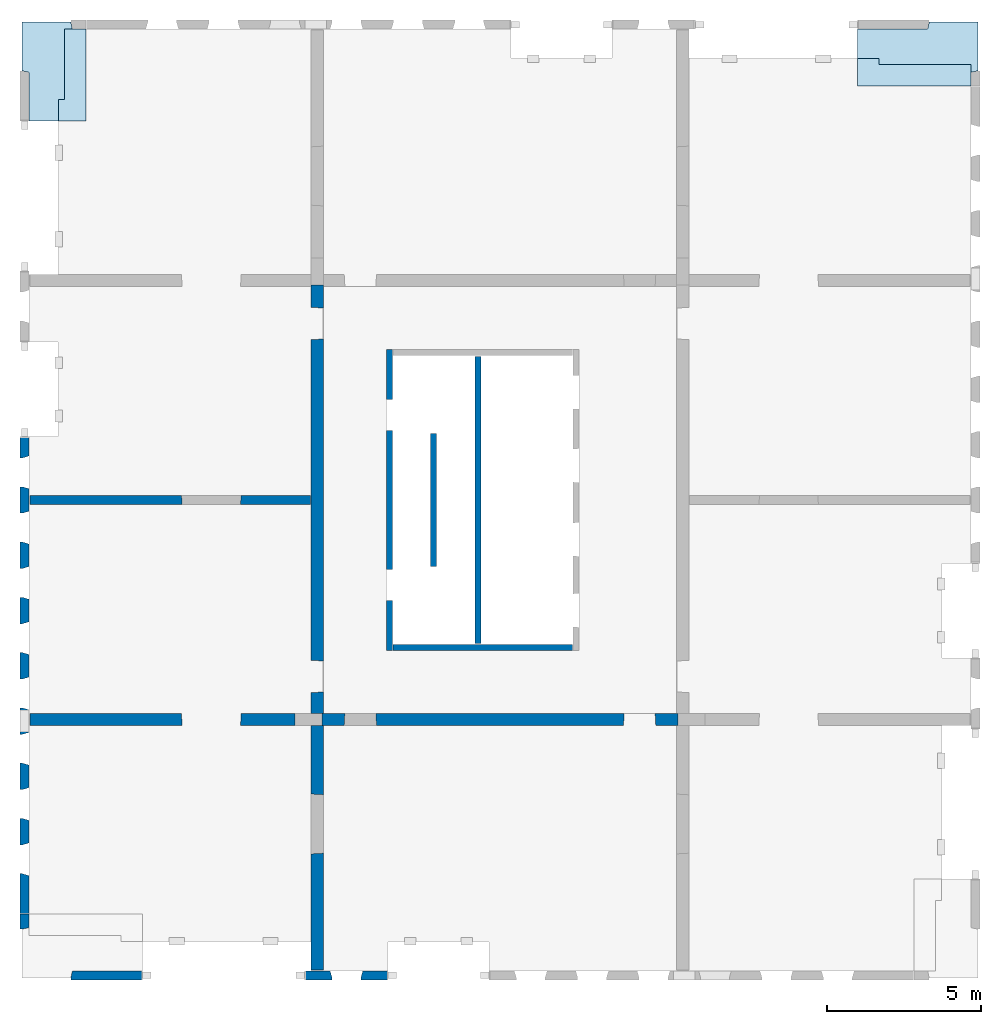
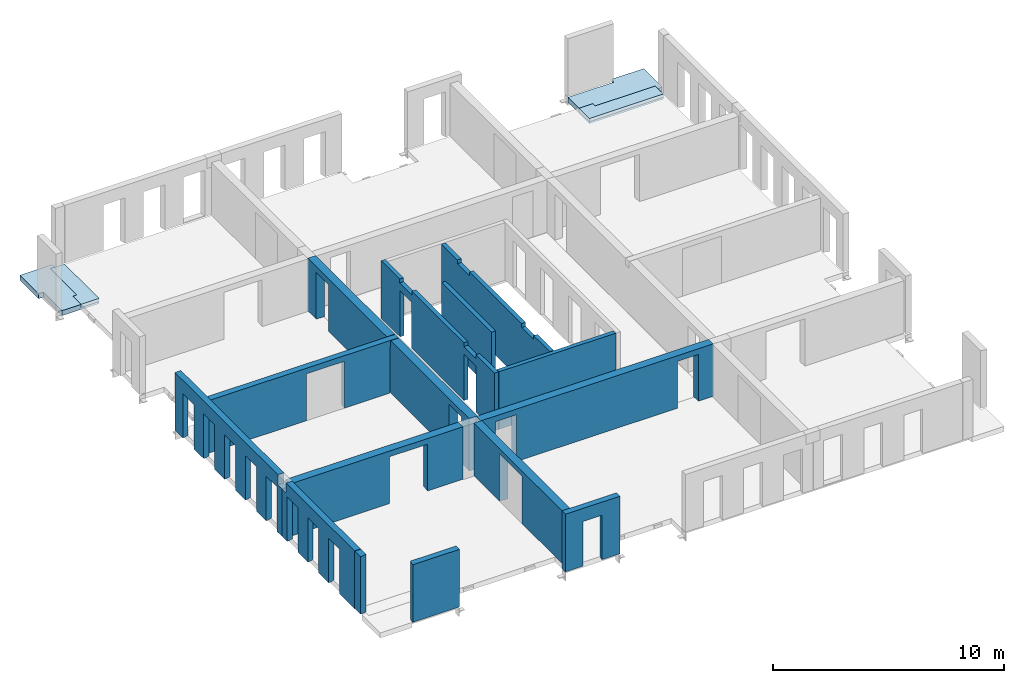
# One storey, part 2 of 4: 14 walls, 4 slabs, 34 openings.
"""IFC2X3 building model written with IfcOpenShell, lengths in millimetres."""

from ifc_helpers import new_model, entity, si_unit, converted_unit, derived_unit, direction, frame, frame_2d, origin, place, context, subcontext, project, spatial, polyline, rectangle, outline, extrude, faceted_brep, material, layer, layer_set, layer_usage, type_object, element, save


model = new_model("IFC2X3")

# Units and contexts
model_context = context("Model", 3, precision=0.01, world=origin(), true_north=direction((6.12303176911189e-17, 1.0)))
body_context = subcontext(model_context, "Body", "Model", "MODEL_VIEW")
ifc_project = project(units=[si_unit("LENGTHUNIT", "METRE", prefix="MILLI"), si_unit("AREAUNIT", "SQUARE_METRE"), si_unit("VOLUMEUNIT", "CUBIC_METRE"), converted_unit("PLANEANGLEUNIT", "DEGREE", entity("IfcRatioMeasure", 0.0174532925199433), si_unit("PLANEANGLEUNIT", "RADIAN"), dimensions=[0, 0, 0, 0, 0, 0, 0]), si_unit("MASSUNIT", "GRAM", prefix="KILO"), derived_unit("MASSDENSITYUNIT", [(si_unit("MASSUNIT", "GRAM", prefix="KILO"), 1), (si_unit("LENGTHUNIT", "METRE"), -3)]), si_unit("TIMEUNIT", "SECOND"), si_unit("FREQUENCYUNIT", "HERTZ"), si_unit("THERMODYNAMICTEMPERATUREUNIT", "DEGREE_CELSIUS"), derived_unit("THERMALTRANSMITTANCEUNIT", [(si_unit("MASSUNIT", "GRAM", prefix="KILO"), 1), (si_unit("THERMODYNAMICTEMPERATUREUNIT", "KELVIN"), -1), (si_unit("TIMEUNIT", "SECOND"), -3)]), derived_unit("VOLUMETRICFLOWRATEUNIT", [(si_unit("LENGTHUNIT", "METRE"), 3), (si_unit("TIMEUNIT", "SECOND"), -1)]), si_unit("ELECTRICCURRENTUNIT", "AMPERE"), si_unit("ELECTRICVOLTAGEUNIT", "VOLT"), si_unit("POWERUNIT", "WATT"), si_unit("FORCEUNIT", "NEWTON", prefix="KILO"), si_unit("ILLUMINANCEUNIT", "LUX"), si_unit("LUMINOUSFLUXUNIT", "LUMEN"), si_unit("LUMINOUSINTENSITYUNIT", "CANDELA"), derived_unit("USERDEFINED", [(si_unit("MASSUNIT", "GRAM", prefix="KILO"), -1), (si_unit("LENGTHUNIT", "METRE"), -2), (si_unit("TIMEUNIT", "SECOND"), 3), (si_unit("LUMINOUSFLUXUNIT", "LUMEN"), 1)]), derived_unit("LINEARVELOCITYUNIT", [(si_unit("LENGTHUNIT", "METRE"), 1), (si_unit("TIMEUNIT", "SECOND"), -1)]), si_unit("PRESSUREUNIT", "PASCAL"), derived_unit("USERDEFINED", [(si_unit("LENGTHUNIT", "METRE"), -2), (si_unit("MASSUNIT", "GRAM", prefix="KILO"), 1), (si_unit("TIMEUNIT", "SECOND"), -2)])], contexts=[model_context])

# Site, building, storey
site_placement = place(None, origin())
site = spatial("IfcSite", under=ifc_project, at=site_placement, Name="Default", CompositionType="ELEMENT")
building_placement = place(site_placement, origin())
building = spatial("IfcBuilding", under=site, at=building_placement, Name="niet gebruiken", CompositionType="ELEMENT")
storey_placement = place(building_placement, frame((0.0, 0.0, 91440.0)))
storey = spatial("IfcBuildingStorey", under=building, at=storey_placement, Name="29 negenentwintigste verdieping", CompositionType="ELEMENT", Elevation=91440.0000000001)

# Slabs
ifc_material_1 = material(Name="NLRS_f2_beton prefab")
ifc_layer_1 = layer(ifc_material_1, 270.0)
ifc_layer_set_1 = layer_set([ifc_layer_1], Name="Floor:NLRS_23.22_FL_beton prefab d=270 3D element_gen")
ifc_layer_usage_1 = layer_usage(ifc_layer_set_1, "AXIS3", "POSITIVE", 0.0)
slab_1_placement = place(storey_placement, origin())
element("IfcSlab", 1, at=slab_1_placement, inside=storey, material=ifc_layer_usage_1, Name="Floor:NLRS_23.22_FL_beton prefab d=270 3D element_gen", ObjectType="Floor:NLRS_23.22_FL_beton prefab d=270 3D element_gen", PredefinedType="LANDING", context=body_context, shape_type="SweptSolid", body=[
    extrude(outline(polyline([(-322.675940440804, -982.471394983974), (1267.47139498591, -982.471394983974), (1267.47139498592, 607.675940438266), (1034.47139498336, 655.152429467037), (1034.47139498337, 1100.5286050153), (-1955.52860501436, 1100.52860501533), (-1955.52860501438, -749.471394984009), (-370.152429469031, -749.471394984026), (-322.675940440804, -982.471394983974)])), frame((127169.471394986, 31795.5286050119, -90.0), z_axis=(0.0, 0.0, -1.0), x_axis=(0.0, 1.0, 0.0)), (0.0, 0.0, 1.0), 270.000000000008),
])
ifc_material_2 = material(Name="NLRS_f2_beton ihwg")
ifc_layer_2 = layer(ifc_material_2, 170.0)
ifc_layer_set_2 = layer_set([ifc_layer_2], Name="Floor:NLRS_23.21_FL_beton ihwg d=170_gen")
ifc_layer_usage_2 = layer_usage(ifc_layer_set_2, "AXIS3", "POSITIVE", 0.0)
slab_2_placement = place(storey_placement, origin())
element("IfcSlab", 2, at=slab_2_placement, inside=storey, material=ifc_layer_usage_2, Name="Floor:NLRS_23.21_FL_beton ihwg d=170_gen", ObjectType="Floor:NLRS_23.21_FL_beton ihwg d=170_gen", PredefinedType="FLOOR", context=body_context, shape_type="SweptSolid", body=[
    extrude(outline(polyline([(-1230.0, -366.666666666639), (-530.0, -366.666666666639), (-530.0, -166.66666666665), (1760.0, -166.666666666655), (1760.0, 533.333333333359), (-1230.0, 533.333333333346), (-1230.0, -366.666666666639)])), frame((127736.666666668, 31070.0, -90.0), z_axis=(0.0, 0.0, -1.0), x_axis=(0.0, 1.0, 0.0)), (0.0, 0.0, 1.0), 169.999999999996),
])
ifc_layer_usage_3 = layer_usage(ifc_layer_set_1, "AXIS3", "POSITIVE", 0.0)
slab_3_placement = place(storey_placement, origin())
element("IfcSlab", 3, at=slab_3_placement, inside=storey, material=ifc_layer_usage_3, Name="Floor:NLRS_23.22_FL_beton prefab d=270 3D element_gen", ObjectType="Floor:NLRS_23.22_FL_beton prefab d=270 3D element_gen", PredefinedType="LANDING", context=body_context, shape_type="SweptSolid", body=[
    extrude(outline(polyline([(-1100.52860501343, -2480.52860501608), (749.471394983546, -2480.52860501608), (749.471394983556, -195.152429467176), (982.471394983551, -147.675940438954), (982.471394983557, 1442.47139498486), (-607.675940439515, 1442.47139498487), (-655.152429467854, 1209.47139498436), (-1100.52860501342, 1209.47139498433), (-1100.52860501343, -2480.52860501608)])), frame((155870.528605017, 32080.5286050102, -90.0), z_axis=(0.0, 0.0, -1.0), x_axis=(0.0, 1.0, 0.0)), (0.0, 0.0, 1.0), 270.000000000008),
])
ifc_layer_usage_4 = layer_usage(ifc_layer_set_2, "AXIS3", "POSITIVE", 0.0)
slab_4_placement = place(storey_placement, origin())
element("IfcSlab", 4, at=slab_4_placement, inside=storey, material=ifc_layer_usage_4, Name="Floor:NLRS_23.21_FL_beton ihwg d=170_gen", ObjectType="Floor:NLRS_23.21_FL_beton ihwg d=170_gen", PredefinedType="FLOOR", context=body_context, shape_type="SweptSolid", body=[
    extrude(outline(polyline([(-533.333333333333, -1463.33333333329), (366.666666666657, -1463.33333333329), (366.666666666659, -763.333333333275), (166.66666666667, -763.333333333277), (166.666666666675, 2226.66666666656), (-533.333333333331, 2226.66666666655), (-533.333333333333, -1463.33333333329)])), frame((154853.333333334, 31513.3333333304, -90.0), z_axis=(0.0, 0.0, -1.0), x_axis=(0.0, 1.0, 0.0)), (0.0, 0.0, 1.0), 169.999999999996),
])

# Wall, openings
ifc_layer_3 = layer(ifc_material_1, 200.0)
ifc_layer_set_3 = layer_set([ifc_layer_3], Name="Basic Wall:NLRS_22.21_WA_beton prefab d=200_gen")
ifc_layer_usage_5 = layer_usage(ifc_layer_set_3, "AXIS2", "NEGATIVE", 100.0)
wall_type_1 = type_object("IfcWallType", Name="Basic Wall:NLRS_22.21_WA_beton prefab d=200_gen", PredefinedType="STANDARD", material=ifc_layer_set_3)
wall_1_placement = place(storey_placement, frame((138150.0, 22400.0, -50.0), z_axis=(0.0, 0.0, 1.0), x_axis=(0.0, -1.0, 0.0)))
wall_1 = element("IfcWallStandardCase", 5, at=wall_1_placement, inside=storey, type_object=wall_type_1, material=ifc_layer_usage_5, Name="Basic Wall:NLRS_22.21_WA_beton prefab d=200_gen", ObjectType="Basic Wall:NLRS_22.21_WA_beton prefab d=200_gen", context=body_context, shape_type="SweptSolid", body=[
    extrude(rectangle(XDim=9800.0, YDim=199.999999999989, at=frame_2d((4900.0, 3.76587649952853e-13), x_axis=(-1.0, 0.0))), origin(), (0.0, 0.0, 1.0), 3040.0),
])
opening_1_placement = place(wall_1_placement, origin())
element("IfcOpeningElement", 6, at=opening_1_placement, cuts=wall_1, Name="Basic Wall:NLRS_22.21_WA_beton prefab d=200_gen", ObjectType="Opening", context=body_context, shape_type="SweptSolid", body=[
    extrude(rectangle(XDim=200.000000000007, YDim=1044.0, at=frame_2d((8.66862137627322e-12, 0.0), x_axis=(1.0, 0.0))), frame((7672.0, -100.0, 2940.0), z_axis=(0.0, 1.0, 0.0), x_axis=(0.0, 0.0, -1.0)), (0.0, 0.0, 1.0), 199.999999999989),
])
opening_2_placement = place(wall_1_placement, origin())
element("IfcOpeningElement", 7, at=opening_2_placement, cuts=wall_1, Name="Basic Wall:NLRS_22.21_WA_beton prefab d=200_gen", ObjectType="Opening", context=body_context, shape_type="SweptSolid", body=[
    extrude(rectangle(XDim=200.000000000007, YDim=1044.0, at=frame_2d((8.66862137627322e-12, 2.1600499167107e-12), x_axis=(1.0, 0.0))), frame((2128.0, -100.0, 2940.0), z_axis=(0.0, 1.0, 0.0), x_axis=(0.0, 0.0, -1.0)), (0.0, 0.0, 1.0), 199.999999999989),
])
opening_3_placement = place(wall_1_placement, origin())
element("IfcOpeningElement", 8, at=opening_3_placement, cuts=wall_1, Name="Basic Wall:NLRS_22.21_WA_beton prefab d=200_gen", ObjectType="Opening", context=body_context, shape_type="SweptSolid", body=[
    extrude(rectangle(XDim=2435.0, YDim=1015.99999999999, at=frame_2d((0.0, 1.10844666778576e-12), x_axis=(1.0, 0.0))), frame((7672.0, -100.0, 1217.50000000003), z_axis=(0.0, 1.0, 0.0), x_axis=(0.0, 0.0, -1.0)), (0.0, 0.0, 1.0), 199.999999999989),
])
opening_4_placement = place(wall_1_placement, origin())
element("IfcOpeningElement", 9, at=opening_4_placement, cuts=wall_1, Name="Basic Wall:NLRS_22.21_WA_beton prefab d=200_gen", ObjectType="Opening", context=body_context, shape_type="SweptSolid", body=[
    extrude(rectangle(XDim=2435.0, YDim=1015.99999999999, at=frame_2d((0.0, -2.18847162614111e-12), x_axis=(1.0, 0.0))), frame((2128.0, -100.0, 1217.50000000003), z_axis=(0.0, 1.0, 0.0), x_axis=(0.0, 0.0, -1.0)), (0.0, 0.0, 1.0), 199.999999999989),
])

ifc_layer_usage_6 = layer_usage(ifc_layer_set_3, "AXIS2", "NEGATIVE", 100.0)
wall_2_placement = place(storey_placement, frame((141030.0, 22180.0, -50.0), z_axis=(0.0, 0.0, 1.0), x_axis=(0.0, -1.0, 0.0)))
wall_2 = element("IfcWallStandardCase", 10, at=wall_2_placement, inside=storey, type_object=wall_type_1, material=ifc_layer_usage_6, Name="Basic Wall:NLRS_22.21_WA_beton prefab d=200_gen", ObjectType="Basic Wall:NLRS_22.21_WA_beton prefab d=200_gen", context=body_context, shape_type="SweptSolid", body=[
    extrude(rectangle(XDim=9360.0, YDim=199.999999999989, at=frame_2d((4680.0, -2.8421709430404e-14), x_axis=(-1.0, 0.0))), origin(), (0.0, 0.0, 1.0), 3040.0),
])
opening_5_placement = place(wall_2_placement, origin())
element("IfcOpeningElement", 11, at=opening_5_placement, cuts=wall_2, Name="Basic Wall:NLRS_22.21_WA_beton prefab d=200_gen", ObjectType="Opening", context=body_context, shape_type="SweptSolid", body=[
    extrude(rectangle(XDim=70.0000000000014, YDim=1044.00000000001, at=frame_2d((-8.66506866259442e-12, 0.0), x_axis=(1.0, 0.0))), frame((7452.0, -100.0, 35.0), z_axis=(0.0, 1.0, 0.0), x_axis=(0.0, 0.0, -1.0)), (0.0, 0.0, 1.0), 199.999999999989),
])
opening_6_placement = place(wall_2_placement, origin())
element("IfcOpeningElement", 12, at=opening_6_placement, cuts=wall_2, Name="Basic Wall:NLRS_22.21_WA_beton prefab d=200_gen", ObjectType="Opening", context=body_context, shape_type="SweptSolid", body=[
    extrude(rectangle(XDim=70.0000000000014, YDim=1044.00000000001, at=frame_2d((-8.66506866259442e-12, 0.0), x_axis=(1.0, 0.0))), frame((1908.0, -100.0, 35.0), z_axis=(0.0, 1.0, 0.0), x_axis=(0.0, 0.0, -1.0)), (0.0, 0.0, 1.0), 199.999999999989),
])
opening_7_placement = place(wall_2_placement, origin())
element("IfcOpeningElement", 13, at=opening_7_placement, cuts=wall_2, Name="Basic Wall:NLRS_22.21_WA_beton prefab d=200_gen", ObjectType="Opening", context=body_context, shape_type="SweptSolid", body=[
    extrude(rectangle(XDim=200.000000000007, YDim=1044.00000000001, at=frame_2d((-8.66862137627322e-12, 0.0), x_axis=(1.0, 0.0))), frame((1908.0, -100.0, 2940.0), z_axis=(0.0, 1.0, 0.0), x_axis=(0.0, 0.0, -1.0)), (0.0, 0.0, 1.0), 199.999999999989),
])
opening_8_placement = place(wall_2_placement, origin())
element("IfcOpeningElement", 14, at=opening_8_placement, cuts=wall_2, Name="Basic Wall:NLRS_22.21_WA_beton prefab d=200_gen", ObjectType="Opening", context=body_context, shape_type="SweptSolid", body=[
    extrude(rectangle(XDim=200.000000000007, YDim=1044.00000000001, at=frame_2d((-8.66862137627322e-12, 0.0), x_axis=(1.0, 0.0))), frame((7452.0, -100.0, 2940.0), z_axis=(0.0, 1.0, 0.0), x_axis=(0.0, 0.0, -1.0)), (0.0, 0.0, 1.0), 199.999999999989),
])
opening_9_placement = place(wall_2_placement, origin())
element("IfcOpeningElement", 15, at=opening_9_placement, cuts=wall_2, Name="Basic Wall:NLRS_22.21_WA_beton prefab d=200_gen", ObjectType="Recess", context=body_context, shape_type="SweptSolid", body=[
    extrude(rectangle(XDim=399.999999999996, YDim=280.000000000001, at=frame_2d((-2.1600499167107e-12, -8.66862137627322e-12), x_axis=(0.0, 1.0))), frame((770.0, -60.0, 438.0), z_axis=(0.0, 1.0, 0.0), x_axis=(1.0, 0.0, 0.0)), (0.0, 0.0, 1.0), 159.999999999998),
])
opening_10_placement = place(wall_2_placement, origin())
element("IfcOpeningElement", 16, at=opening_10_placement, cuts=wall_2, Name="Basic Wall:NLRS_22.21_WA_beton prefab d=200_gen", ObjectType="Recess", context=body_context, shape_type="SweptSolid", body=[
    extrude(rectangle(XDim=399.999999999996, YDim=280.000000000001, at=frame_2d((-2.1600499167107e-12, -8.66862137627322e-12), x_axis=(0.0, 1.0))), frame((1570.0, -60.0, 438.0), z_axis=(0.0, 1.0, 0.0), x_axis=(1.0, 0.0, 0.0)), (0.0, 0.0, 1.0), 159.999999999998),
])
opening_11_placement = place(wall_2_placement, origin())
element("IfcOpeningElement", 17, at=opening_11_placement, cuts=wall_2, Name="Basic Wall:NLRS_22.21_WA_beton prefab d=200_gen", ObjectType="Recess", context=body_context, shape_type="SweptSolid", body=[
    extrude(rectangle(XDim=399.999999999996, YDim=279.999999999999, at=frame_2d((-1.08002495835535e-12, -8.66862137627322e-12), x_axis=(0.0, 1.0))), frame((3160.0, -60.0, 438.0), z_axis=(0.0, 1.0, 0.0), x_axis=(1.0, 0.0, 0.0)), (0.0, 0.0, 1.0), 159.999999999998),
])
opening_12_placement = place(wall_2_placement, origin())
element("IfcOpeningElement", 18, at=opening_12_placement, cuts=wall_2, Name="Basic Wall:NLRS_22.21_WA_beton prefab d=200_gen", ObjectType="Recess", context=body_context, shape_type="SweptSolid", body=[
    extrude(rectangle(XDim=399.999999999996, YDim=279.999999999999, at=frame_2d((1.08002495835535e-12, -8.66862137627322e-12), x_axis=(0.0, 1.0))), frame((3960.0, -60.0, 438.0), z_axis=(0.0, 1.0, 0.0), x_axis=(1.0, 0.0, 0.0)), (0.0, 0.0, 1.0), 159.999999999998),
])

# Walls
ifc_layer_usage_7 = layer_usage(ifc_layer_set_3, "AXIS2", "NEGATIVE", 100.0)
wall_3_placement = place(storey_placement, frame((139590.0, 19660.0, -50.0), z_axis=(0.0, 0.0, 1.0), x_axis=(0.0, -1.0, 0.0)))
element("IfcWallStandardCase", 19, at=wall_3_placement, inside=storey, type_object=wall_type_1, material=ifc_layer_usage_7, Name="Basic Wall:NLRS_22.21_WA_beton prefab d=200_gen", ObjectType="Basic Wall:NLRS_22.21_WA_beton prefab d=200_gen", context=body_context, shape_type="SweptSolid", body=[
    extrude(rectangle(XDim=4320.00000000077, YDim=199.999999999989, at=frame_2d((2160.00000000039, 0.0), x_axis=(-1.0, 0.0))), origin(), (0.0, 0.0, 1.0), 3040.0),
])
ifc_layer_usage_8 = layer_usage(ifc_layer_set_3, "AXIS2", "NEGATIVE", 100.0)
wall_4_placement = place(storey_placement, frame((138270.0, 12700.0, -50.0)))
element("IfcWallStandardCase", 20, at=wall_4_placement, inside=storey, type_object=wall_type_1, material=ifc_layer_usage_8, Name="Basic Wall:NLRS_22.21_WA_beton prefab d=200_gen", ObjectType="Basic Wall:NLRS_22.21_WA_beton prefab d=200_gen", context=body_context, shape_type="SweptSolid", body=[
    extrude(rectangle(XDim=5839.99999999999, YDim=199.999999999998, at=frame_2d((2919.99999999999, -6.82121026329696e-13), x_axis=(-1.0, 0.0))), origin(), (0.0, 0.0, 1.0), 3040.0),
])

# Wall, openings
ifc_layer_4 = layer(ifc_material_1, 300.0)
ifc_layer_set_4 = layer_set([ifc_layer_4], Name="Basic Wall:NLRS_22.21_WA_beton prefab d=300_gen")
ifc_layer_usage_9 = layer_usage(ifc_layer_set_4, "AXIS2", "NEGATIVE", 150.0)
wall_type_2 = type_object("IfcWallType", Name="Basic Wall:NLRS_22.21_WA_beton prefab d=300_gen", PredefinedType="STANDARD", material=ifc_layer_set_4)
wall_5_placement = place(storey_placement, frame((126440.0, 17500.0, -70.0)))
wall_5 = element("IfcWallStandardCase", 21, at=wall_5_placement, inside=storey, type_object=wall_type_2, material=ifc_layer_usage_9, Name="Basic Wall:NLRS_22.21_WA_beton prefab d=300_gen", ObjectType="Basic Wall:NLRS_22.21_WA_beton prefab d=300_gen", context=body_context, shape_type="SweptSolid", body=[
    extrude(rectangle(XDim=9559.9999999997, YDim=300.000000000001, at=frame_2d((4779.99999999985, -5.54223333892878e-13), x_axis=(-1.0, 0.0))), origin(), (0.0, 0.0, 1.0), 2769.99999999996),
])
opening_13_placement = place(wall_5_placement, frame((4942.0, -150.0, 0.0)))
element("IfcOpeningElement", 22, at=opening_13_placement, cuts=wall_5, Name="Basic Wall:NLRS_22.21_WA_beton prefab d=300_gen", ObjectType="Opening", context=body_context, shape_type="Brep", body=[
    faceted_brep([(1918.0, 0.0, 2470.0), (18.0, 0.0, 2470.0), (18.0, 0.0, 0.0), (1918.0, 0.0, 0.0), (1936.0, 300.0, 2488.0), (1936.0, 300.0, 0.0), (0.0, 300.0, 0.0), (0.0, 300.0, 2488.0)], [[[0, 1, 2, 3]], [[4, 5, 6, 7]], [[4, 7, 1, 0]], [[7, 6, 2, 1]], [[6, 5, 3, 2]], [[5, 4, 0, 3]]]),
])
opening_14_placement = place(wall_5_placement, origin())
element("IfcOpeningElement", 23, at=opening_14_placement, cuts=wall_5, Name="Basic Wall:NLRS_22.21_WA_beton prefab d=300_gen", ObjectType="Opening", context=body_context, shape_type="SweptSolid", body=[
    extrude(rectangle(XDim=2439.99999999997, YDim=420.000000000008, at=frame_2d((0.0, 0.0), x_axis=(0.0, 1.0))), frame((9350.0, 150.0, 1220.0), z_axis=(0.0, -1.0, 0.0), x_axis=(1.0, 0.0, 0.0)), (0.0, 0.0, 1.0), 300.0),
])

# Wall, opening
ifc_layer_5 = layer(ifc_material_1, 400.0)
ifc_layer_set_5 = layer_set([ifc_layer_5], Name="Basic Wall:NLRS_22.21_WA_beton prefab d=400_gen")
ifc_layer_usage_10 = layer_usage(ifc_layer_set_5, "AXIS2", "NEGATIVE", 200.0)
wall_type_3 = type_object("IfcWallType", Name="Basic Wall:NLRS_22.21_WA_beton prefab d=400_gen", PredefinedType="STANDARD", material=ifc_layer_set_5)
wall_6_placement = place(storey_placement, frame((135800.0, 10150.0, -70.0), z_axis=(0.0, 0.0, 1.0), x_axis=(0.0, -1.0, 0.0)))
wall_6 = element("IfcWallStandardCase", 24, at=wall_6_placement, inside=storey, type_object=wall_type_3, material=ifc_layer_usage_10, Name="Basic Wall:NLRS_22.21_WA_beton prefab d=400_gen", ObjectType="Basic Wall:NLRS_22.21_WA_beton prefab d=400_gen", context=body_context, shape_type="SweptSolid", body=[
    extrude(rectangle(XDim=7959.99999999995, YDim=400.000000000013, at=frame_2d((3979.99999999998, 4.54747350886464e-13), x_axis=(-1.0, 0.0))), origin(), (0.0, 0.0, 1.0), 2770.00000000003),
])
opening_15_placement = place(wall_6_placement, frame((4174.0, -200.0, 0.0)))
element("IfcOpeningElement", 25, at=opening_15_placement, cuts=wall_6, Name="Basic Wall:NLRS_22.21_WA_beton prefab d=400_gen", ObjectType="Opening", context=body_context, shape_type="Brep", body=[
    faceted_brep([(-24.0, 400.0, 2470.0), (-24.0, 400.0, 0.0), (-1924.0, 400.0, 0.0), (-1924.0, 400.0, 2470.0), (0.0, 0.0, 2494.0), (-1948.0, 0.0, 2494.0), (-1948.0, 0.0, 0.0), (0.0, 0.0, 0.0)], [[[0, 1, 2, 3]], [[4, 5, 6, 7]], [[4, 0, 3, 5]], [[5, 3, 2, 6]], [[6, 2, 1, 7]], [[7, 1, 0, 4]]]),
])

# Wall, openings
ifc_layer_usage_11 = layer_usage(ifc_layer_set_5, "AXIS2", "NEGATIVE", 200.0)
wall_7_placement = place(storey_placement, frame((135948.750788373, 10350.0, -70.0)))
wall_7 = element("IfcWallStandardCase", 26, at=wall_7_placement, inside=storey, type_object=wall_type_3, material=ifc_layer_usage_11, Name="Basic Wall:NLRS_22.21_WA_beton prefab d=400_gen", ObjectType="Basic Wall:NLRS_22.21_WA_beton prefab d=400_gen", context=body_context, shape_type="SweptSolid", body=[
    extrude(rectangle(XDim=11601.2492116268, YDim=400.0, at=frame_2d((5800.62460581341, 1.70530256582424e-13), x_axis=(-1.0, 0.0))), origin(), (0.0, 0.0, 1.0), 2770.00000000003),
])
opening_16_placement = place(wall_7_placement, frame((727.249211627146, -200.0, 0.0)))
element("IfcOpeningElement", 27, at=opening_16_placement, cuts=wall_7, Name="Basic Wall:NLRS_22.21_WA_beton prefab d=400_gen", ObjectType="Opening", context=body_context, shape_type="Brep", body=[
    faceted_brep([(0.0, 0.0, 2472.0), (24.0, 400.0, 2448.0), (24.0, 400.0, 0.0), (0.0, 0.0, 0.0), (1030.0, 400.0, 0.0), (1054.0, 0.0, 0.0), (1030.0, 400.0, 2448.0), (1054.0, 0.0, 2472.0)], [[[0, 1, 2, 3]], [[3, 2, 4, 5]], [[6, 4, 2, 1]], [[7, 0, 3, 5]], [[7, 6, 1, 0]], [[5, 4, 6, 7]]]),
])
opening_17_placement = place(wall_7_placement, frame((9821.24921162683, -200.0, 0.0)))
element("IfcOpeningElement", 28, at=opening_17_placement, cuts=wall_7, Name="Basic Wall:NLRS_22.21_WA_beton prefab d=400_gen", ObjectType="Opening", context=body_context, shape_type="Brep", body=[
    faceted_brep([(0.0, 0.0, 2472.0), (24.0, 400.0, 2448.0), (24.0, 400.0, 0.0), (0.0, 0.0, 0.0), (1030.0, 400.0, 0.0), (1054.0, 0.0, 0.0), (1030.0, 400.0, 2448.0), (1054.0, 0.0, 2472.0)], [[[0, 1, 2, 3]], [[3, 2, 4, 5]], [[6, 4, 2, 1]], [[7, 0, 3, 5]], [[7, 6, 1, 0]], [[5, 4, 6, 7]]]),
])

# Wall, opening
ifc_layer_usage_12 = layer_usage(ifc_layer_set_5, "AXIS2", "NEGATIVE", 200.0)
wall_8_placement = place(storey_placement, frame((126440.0, 10350.0, -70.0)))
wall_8 = element("IfcWallStandardCase", 29, at=wall_8_placement, inside=storey, type_object=wall_type_3, material=ifc_layer_usage_12, Name="Basic Wall:NLRS_22.21_WA_beton prefab d=400_gen", ObjectType="Basic Wall:NLRS_22.21_WA_beton prefab d=400_gen", context=body_context, shape_type="SweptSolid", body=[
    extrude(rectangle(XDim=8628.75078837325, YDim=400.0, at=frame_2d((4314.37539418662, -2.8421709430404e-13), x_axis=(-1.0, 0.0))), origin(), (0.0, 0.0, 1.0), 2770.00000000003),
])
opening_18_placement = place(wall_8_placement, frame((4936.0, -200.0, 0.0)))
element("IfcOpeningElement", 30, at=opening_18_placement, cuts=wall_8, Name="Basic Wall:NLRS_22.21_WA_beton prefab d=400_gen", ObjectType="Opening", context=body_context, shape_type="Brep", body=[
    faceted_brep([(1924.0, 0.0, 2470.0), (24.0, 0.0, 2470.0), (24.0, 0.0, 0.0), (1924.0, 0.0, 0.0), (1948.0, 400.0, 2494.0), (1948.0, 400.0, 0.0), (0.0, 400.0, 0.0), (0.0, 400.0, 2494.0)], [[[0, 1, 2, 3]], [[4, 5, 6, 7]], [[4, 7, 1, 0]], [[7, 6, 2, 1]], [[6, 5, 3, 2]], [[5, 4, 0, 3]]]),
])

# Wall, openings
ifc_layer_usage_13 = layer_usage(ifc_layer_set_5, "AXIS2", "NEGATIVE", 200.0)
wall_9_placement = place(storey_placement, frame((135800.0, 24500.0, -70.0), z_axis=(0.0, 0.0, 1.0), x_axis=(0.0, -1.0, 0.0)))
wall_9 = element("IfcWallStandardCase", 31, at=wall_9_placement, inside=storey, type_object=wall_type_3, material=ifc_layer_usage_13, Name="Basic Wall:NLRS_22.21_WA_beton prefab d=400_gen", ObjectType="Basic Wall:NLRS_22.21_WA_beton prefab d=400_gen", context=body_context, shape_type="SweptSolid", body=[
    extrude(rectangle(XDim=13950.0, YDim=400.000000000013, at=frame_2d((6974.99999999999, 2.8421709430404e-14), x_axis=(-1.0, 0.0))), origin(), (0.0, 0.0, 1.0), 2770.00000000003),
])
opening_19_placement = place(wall_9_placement, frame((13274.0, -200.0, 0.0)))
element("IfcOpeningElement", 32, at=opening_19_placement, cuts=wall_9, Name="Basic Wall:NLRS_22.21_WA_beton prefab d=400_gen", ObjectType="Opening", context=body_context, shape_type="Brep", body=[
    faceted_brep([(-1054.0, 0.0, 2472.0), (-1030.0, 400.0, 2448.0), (-1030.0, 400.0, 0.0), (-1054.0, 0.0, 0.0), (-24.0, 400.0, 0.0), (0.0, 0.0, 0.0), (-24.0, 400.0, 2448.0), (0.0, 0.0, 2472.0)], [[[0, 1, 2, 3]], [[3, 2, 4, 5]], [[6, 4, 2, 1]], [[7, 0, 3, 5]], [[7, 6, 1, 0]], [[5, 4, 6, 7]]]),
])
opening_20_placement = place(wall_9_placement, frame((1780.0, -200.0, 0.0)))
element("IfcOpeningElement", 33, at=opening_20_placement, cuts=wall_9, Name="Basic Wall:NLRS_22.21_WA_beton prefab d=400_gen", ObjectType="Opening", context=body_context, shape_type="Brep", body=[
    faceted_brep([(-1054.0, 0.0, 2472.0), (-1030.0, 400.0, 2448.0), (-1030.0, 400.0, 0.0), (-1054.0, 0.0, 0.0), (-24.0, 400.0, 0.0), (0.0, 0.0, 0.0), (-24.0, 400.0, 2448.0), (0.0, 0.0, 2472.0)], [[[0, 1, 2, 3]], [[3, 2, 4, 5]], [[6, 4, 2, 1]], [[7, 0, 3, 5]], [[7, 6, 1, 0]], [[5, 4, 6, 7]]]),
])
opening_21_placement = place(wall_9_placement, origin())
element("IfcOpeningElement", 34, at=opening_21_placement, cuts=wall_9, Name="Basic Wall:NLRS_22.21_WA_beton prefab d=400_gen", ObjectType="Opening", context=body_context, shape_type="SweptSolid", body=[
    extrude(rectangle(XDim=350.000000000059, YDim=339.999999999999, at=frame_2d((-1.08002495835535e-12, 0.0), x_axis=(0.0, 1.0))), frame((7000.0, 200.0, 2595.0), z_axis=(0.0, -1.0, 0.0), x_axis=(-1.0, 0.0, 0.0)), (0.0, 0.0, 1.0), 400.0),
])

# Wall, opening
ifc_layer_6 = layer(ifc_material_1, 300.0)
ifc_layer_set_6 = layer_set([ifc_layer_6], Name="Basic Wall:NLRS_21.21_WA_beton prefab d=300/320_gen")
ifc_layer_usage_14 = layer_usage(ifc_layer_set_6, "AXIS2", "NEGATIVE", 150.0)
wall_type_4 = type_object("IfcWallType", Name="Basic Wall:NLRS_21.21_WA_beton prefab d=300/320_gen", PredefinedType="STANDARD", material=ifc_layer_set_6)
wall_10_placement = place(storey_placement, frame((138110.0, 2020.0, -50.0), z_axis=(0.0, 0.0, 1.0), x_axis=(-1.0, 0.0, 0.0)))
wall_10 = element("IfcWallStandardCase", 35, at=wall_10_placement, inside=storey, type_object=wall_type_4, material=ifc_layer_usage_14, Name="Basic Wall:NLRS_21.21_WA_beton prefab d=300/320_gen", ObjectType="Basic Wall:NLRS_21.21_WA_beton prefab d=300/320_gen", context=body_context, shape_type="SweptSolid", body=[
    extrude(rectangle(XDim=2720.00000000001, YDim=300.0, at=frame_2d((1360.0, -8.5265128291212e-14), x_axis=(-1.0, 0.0))), origin(), (0.0, 0.0, 1.0), 3040.0),
])
opening_22_placement = place(wall_10_placement, frame((1895.0, 150.0, -20.0)))
element("IfcOpeningElement", 36, at=opening_22_placement, cuts=wall_10, Name="Basic Wall:NLRS_21.21_WA_beton prefab d=300/320_gen", ObjectType="Opening", context=body_context, shape_type="Brep", body=[
    faceted_brep([(-1070.0, -300.0, 2405.0), (-1070.0, -300.0, 0.0), (0.0, -300.0, 0.0), (0.0, -300.0, 2405.0), (-65.0, -81.0, 2370.0), (-1005.0, -81.0, 2370.0), (-65.0, -81.0, 0.0), (-1005.0, -81.0, 0.0), (-1005.0, 0.0, 0.0), (-65.0, 0.0, 0.0), (-1005.0, 0.0, 2370.0), (-65.0, 0.0, 2370.0)], [[[0, 1, 2, 3]], [[3, 4, 5, 0]], [[2, 6, 4, 3]], [[1, 7, 8, 9, 6, 2]], [[0, 5, 7, 1]], [[10, 11, 9, 8]], [[10, 5, 4, 11]], [[11, 4, 6, 9]], [[8, 7, 5, 10]]]),
])

# Wall, openings
ifc_layer_usage_15 = layer_usage(ifc_layer_set_6, "AXIS2", "NEGATIVE", 150.0)
wall_11_placement = place(storey_placement, frame((126270.0, 4040.0, -50.0), z_axis=(0.0, 0.0, 1.0), x_axis=(0.0, 1.0, 0.0)))
wall_11 = element("IfcWallStandardCase", 37, at=wall_11_placement, inside=storey, type_object=wall_type_4, material=ifc_layer_usage_15, Name="Basic Wall:NLRS_21.21_WA_beton prefab d=300/320_gen", ObjectType="Basic Wall:NLRS_21.21_WA_beton prefab d=300/320_gen", context=body_context, shape_type="SweptSolid", body=[
    extrude(rectangle(XDim=6249.99999999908, YDim=300.000000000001, at=frame_2d((3124.99999999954, 0.0), x_axis=(-1.0, 0.0))), origin(), (0.0, 0.0, 1.0), 3039.99999999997),
])
opening_23_placement = place(wall_11_placement, frame((1225.0, 150.0, -20.0)))
element("IfcOpeningElement", 38, at=opening_23_placement, cuts=wall_11, Name="Basic Wall:NLRS_21.21_WA_beton prefab d=300/320_gen", ObjectType="Opening", context=body_context, shape_type="Brep", body=[
    faceted_brep([(0.0, -300.0, 2405.0), (0.0, -300.0, 0.0), (1070.0, -300.0, 0.0), (1070.0, -300.0, 2405.0), (1005.0, -81.0, 2370.0), (65.0, -81.0, 2370.0), (1005.0, -81.0, 0.0), (65.0, -81.0, 0.0), (65.0, 0.0, 0.0), (1005.0, 0.0, 0.0), (65.0, 0.0, 2370.0), (1005.0, 0.0, 2370.0)], [[[0, 1, 2, 3]], [[3, 4, 5, 0]], [[2, 6, 4, 3]], [[1, 7, 8, 9, 6, 2]], [[0, 5, 7, 1]], [[10, 11, 9, 8]], [[10, 5, 4, 11]], [[11, 4, 6, 9]], [[8, 7, 5, 10]]]),
])
opening_24_placement = place(wall_11_placement, frame((3025.0, 150.0, -20.0)))
element("IfcOpeningElement", 39, at=opening_24_placement, cuts=wall_11, Name="Basic Wall:NLRS_21.21_WA_beton prefab d=300/320_gen", ObjectType="Opening", context=body_context, shape_type="Brep", body=[
    faceted_brep([(0.0, -300.0, 2405.0), (0.0, -300.0, 0.0), (1070.0, -300.0, 0.0), (1070.0, -300.0, 2405.0), (1005.0, -81.0, 2370.0), (65.0, -81.0, 2370.0), (1005.0, -81.0, 0.0), (65.0, -81.0, 0.0), (65.0, 0.0, 0.0), (1005.0, 0.0, 0.0), (65.0, 0.0, 2370.0), (1005.0, 0.0, 2370.0)], [[[0, 1, 2, 3]], [[3, 4, 5, 0]], [[2, 6, 4, 3]], [[1, 7, 8, 9, 6, 2]], [[0, 5, 7, 1]], [[10, 11, 9, 8]], [[10, 5, 4, 11]], [[11, 4, 6, 9]], [[8, 7, 5, 10]]]),
])
opening_25_placement = place(wall_11_placement, frame((4825.0, 150.0, -20.0)))
element("IfcOpeningElement", 40, at=opening_25_placement, cuts=wall_11, Name="Basic Wall:NLRS_21.21_WA_beton prefab d=300/320_gen", ObjectType="Opening", context=body_context, shape_type="Brep", body=[
    faceted_brep([(0.0, -300.0, 2405.0), (0.0, -300.0, 0.0), (1070.0, -300.0, 0.0), (1070.0, -300.0, 2405.0), (1005.0, -81.0, 2370.0), (65.0, -81.0, 2370.0), (1005.0, -81.0, 0.0), (65.0, -81.0, 0.0), (65.0, 0.0, 0.0), (1005.0, 0.0, 0.0), (65.0, 0.0, 2370.0), (1005.0, 0.0, 2370.0)], [[[0, 1, 2, 3]], [[3, 4, 5, 0]], [[2, 6, 4, 3]], [[1, 7, 8, 9, 6, 2]], [[0, 5, 7, 1]], [[10, 11, 9, 8]], [[10, 5, 4, 11]], [[11, 4, 6, 9]], [[8, 7, 5, 10]]]),
])
opening_26_placement = place(wall_11_placement, origin())
element("IfcOpeningElement", 41, at=opening_26_placement, cuts=wall_11, Name="Basic Wall:NLRS_21.21_WA_beton prefab d=300/320_gen", ObjectType="Opening", context=body_context, shape_type="SweptSolid", body=[
    extrude(rectangle(XDim=534.99999999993, YDim=344.999999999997, at=frame_2d((0.0, 1.08002495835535e-12), x_axis=(1.0, 0.0))), frame((6077.49999999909, 150.0, 2772.5), z_axis=(0.0, -1.0, 0.0), x_axis=(0.0, 0.0, 1.0)), (0.0, 0.0, 1.0), 300.0),
])

# Wall, opening
ifc_layer_usage_16 = layer_usage(ifc_layer_set_6, "AXIS2", "NEGATIVE", 150.0)
wall_12_placement = place(storey_placement, frame((130110.0, 2020.0, -50.0), z_axis=(0.0, 0.0, 1.0), x_axis=(-1.0, 0.0, 0.0)))
wall_12 = element("IfcWallStandardCase", 42, at=wall_12_placement, inside=storey, type_object=wall_type_4, material=ifc_layer_usage_16, Name="Basic Wall:NLRS_21.21_WA_beton prefab d=300/320_gen", ObjectType="Basic Wall:NLRS_21.21_WA_beton prefab d=300/320_gen", context=body_context, shape_type="SweptSolid", body=[
    extrude(rectangle(XDim=2330.00000000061, YDim=300.0, at=frame_2d((1165.00000000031, -5.6843418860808e-14), x_axis=(-1.0, 0.0))), origin(), (0.0, 0.0, 1.0), 3040.0),
])
opening_27_placement = place(wall_12_placement, frame((2330.0, 69.0, 0.0)))
element("IfcOpeningElement", 43, at=opening_27_placement, cuts=wall_12, Name="Basic Wall:NLRS_21.21_WA_beton prefab d=300/320_gen", ObjectType="Opening", context=body_context, shape_type="Brep", body=[
    faceted_brep([(0.0, -319.0, 3040.0), (0.0, 0.0, 3040.0), (-65.0, -319.0, 3040.0), (0.0, -319.0, 0.0), (-65.0, -319.0, 0.0), (0.0, 0.0, 0.0)], [[[0, 1, 2]], [[3, 4, 5]], [[2, 4, 3, 0]], [[0, 3, 5, 1]], [[1, 5, 4, 2]]]),
])

ifc_layer_usage_17 = layer_usage(ifc_layer_set_6, "AXIS2", "NEGATIVE", 150.0)
wall_13_placement = place(storey_placement, frame((126270.0, 3530.0, -50.0), z_axis=(0.0, 0.0, 1.0), x_axis=(0.0, 1.0, 0.0)))
wall_13 = element("IfcWallStandardCase", 44, at=wall_13_placement, inside=storey, type_object=wall_type_4, material=ifc_layer_usage_17, Name="Basic Wall:NLRS_21.21_WA_beton prefab d=300/320_gen", ObjectType="Basic Wall:NLRS_21.21_WA_beton prefab d=300/320_gen", context=body_context, shape_type="SweptSolid", body=[
    extrude(rectangle(XDim=489.999999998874, YDim=300.000000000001, at=frame_2d((244.999999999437, -3.25428572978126e-12), x_axis=(-1.0, 0.0))), origin(), (0.0, 0.0, 1.0), 3040.0),
])
opening_28_placement = place(wall_13_placement, frame((-1.97405825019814e-09, 69.0, 0.0)))
element("IfcOpeningElement", 45, at=opening_28_placement, cuts=wall_13, Name="Basic Wall:NLRS_21.21_WA_beton prefab d=300/320_gen", ObjectType="Opening", context=body_context, shape_type="Brep", body=[
    faceted_brep([(0.0, -319.0, 3040.0), (65.0, -319.0, 3040.0), (0.0, 0.0, 3040.0), (0.0, -319.0, 0.0), (0.0, 0.0, 0.0), (65.0, -319.0, 0.0)], [[[0, 1, 2]], [[3, 4, 5]], [[1, 0, 3, 5]], [[0, 2, 4, 3]], [[2, 1, 5, 4]]]),
])

# Wall, openings
ifc_layer_usage_18 = layer_usage(ifc_layer_set_6, "AXIS2", "NEGATIVE", 150.0)
wall_14_placement = place(storey_placement, frame((126270.0, 10310.0, -50.0), z_axis=(0.0, 0.0, 1.0), x_axis=(0.0, 1.0, 0.0)))
wall_14 = element("IfcWallStandardCase", 46, at=wall_14_placement, inside=storey, type_object=wall_type_4, material=ifc_layer_usage_18, Name="Basic Wall:NLRS_21.21_WA_beton prefab d=300/320_gen", ObjectType="Basic Wall:NLRS_21.21_WA_beton prefab d=300/320_gen", context=body_context, shape_type="SweptSolid", body=[
    extrude(rectangle(XDim=9250.00000000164, YDim=300.000000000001, at=frame_2d((4625.00000000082, 0.0), x_axis=(-1.0, 0.0))), origin(), (0.0, 0.0, 1.0), 3040.0),
])
opening_29_placement = place(wall_14_placement, frame((7555.0, 150.0, -20.0)))
element("IfcOpeningElement", 47, at=opening_29_placement, cuts=wall_14, Name="Basic Wall:NLRS_21.21_WA_beton prefab d=300/320_gen", ObjectType="Opening", context=body_context, shape_type="Brep", body=[
    faceted_brep([(0.0, -300.0, 2405.0), (0.0, -300.0, 0.0), (1070.0, -300.0, 0.0), (1070.0, -300.0, 2405.0), (1005.0, -81.0, 2370.0), (65.0, -81.0, 2370.0), (1005.0, -81.0, 0.0), (65.0, -81.0, 0.0), (65.0, 0.0, 0.0), (1005.0, 0.0, 0.0), (65.0, 0.0, 2370.0), (1005.0, 0.0, 2370.0)], [[[0, 1, 2, 3]], [[3, 4, 5, 0]], [[2, 6, 4, 3]], [[1, 7, 8, 9, 6, 2]], [[0, 5, 7, 1]], [[10, 11, 9, 8]], [[10, 5, 4, 11]], [[11, 4, 6, 9]], [[8, 7, 5, 10]]]),
])
opening_30_placement = place(wall_14_placement, frame((3955.0, 150.0, -20.0)))
element("IfcOpeningElement", 48, at=opening_30_placement, cuts=wall_14, Name="Basic Wall:NLRS_21.21_WA_beton prefab d=300/320_gen", ObjectType="Opening", context=body_context, shape_type="Brep", body=[
    faceted_brep([(0.0, -300.0, 2405.0), (0.0, -300.0, 0.0), (1070.0, -300.0, 0.0), (1070.0, -300.0, 2405.0), (1005.0, -81.0, 2370.0), (65.0, -81.0, 2370.0), (1005.0, -81.0, 0.0), (65.0, -81.0, 0.0), (65.0, 0.0, 0.0), (1005.0, 0.0, 0.0), (65.0, 0.0, 2370.0), (1005.0, 0.0, 2370.0)], [[[0, 1, 2, 3]], [[3, 4, 5, 0]], [[2, 6, 4, 3]], [[1, 7, 8, 9, 6, 2]], [[0, 5, 7, 1]], [[10, 11, 9, 8]], [[10, 5, 4, 11]], [[11, 4, 6, 9]], [[8, 7, 5, 10]]]),
])
opening_31_placement = place(wall_14_placement, frame((2155.0, 150.0, -20.0)))
element("IfcOpeningElement", 49, at=opening_31_placement, cuts=wall_14, Name="Basic Wall:NLRS_21.21_WA_beton prefab d=300/320_gen", ObjectType="Opening", context=body_context, shape_type="Brep", body=[
    faceted_brep([(0.0, -300.0, 2405.0), (0.0, -300.0, 0.0), (1070.0, -300.0, 0.0), (1070.0, -300.0, 2405.0), (1005.0, -81.0, 2370.0), (65.0, -81.0, 2370.0), (1005.0, -81.0, 0.0), (65.0, -81.0, 0.0), (65.0, 0.0, 0.0), (1005.0, 0.0, 0.0), (65.0, 0.0, 2370.0), (1005.0, 0.0, 2370.0)], [[[0, 1, 2, 3]], [[3, 4, 5, 0]], [[2, 6, 4, 3]], [[1, 7, 8, 9, 6, 2]], [[0, 5, 7, 1]], [[10, 11, 9, 8]], [[10, 5, 4, 11]], [[11, 4, 6, 9]], [[8, 7, 5, 10]]]),
])
opening_32_placement = place(wall_14_placement, frame((5755.0, 150.0, -20.0)))
element("IfcOpeningElement", 50, at=opening_32_placement, cuts=wall_14, Name="Basic Wall:NLRS_21.21_WA_beton prefab d=300/320_gen", ObjectType="Opening", context=body_context, shape_type="Brep", body=[
    faceted_brep([(0.0, -300.0, 2405.0), (0.0, -300.0, 0.0), (1070.0, -300.0, 0.0), (1070.0, -300.0, 2405.0), (1005.0, -81.0, 2370.0), (65.0, -81.0, 2370.0), (1005.0, -81.0, 0.0), (65.0, -81.0, 0.0), (65.0, 0.0, 0.0), (1005.0, 0.0, 0.0), (65.0, 0.0, 2370.0), (1005.0, 0.0, 2370.0)], [[[0, 1, 2, 3]], [[3, 4, 5, 0]], [[2, 6, 4, 3]], [[1, 7, 8, 9, 6, 2]], [[0, 5, 7, 1]], [[10, 11, 9, 8]], [[10, 5, 4, 11]], [[11, 4, 6, 9]], [[8, 7, 5, 10]]]),
])
opening_33_placement = place(wall_14_placement, frame((355.0, 150.0, -20.0)))
element("IfcOpeningElement", 51, at=opening_33_placement, cuts=wall_14, Name="Basic Wall:NLRS_21.21_WA_beton prefab d=300/320_gen", ObjectType="Opening", context=body_context, shape_type="Brep", body=[
    faceted_brep([(1070.0, -300.0, 2405.0), (0.0, -300.0, 2405.0), (0.0, -300.0, 0.0), (1070.0, -300.0, 0.0), (1005.0, -81.0, 2370.0), (65.0, -81.0, 2370.0), (65.0, -81.0, 0.0), (65.0, 0.0, 0.0), (1005.0, 0.0, 0.0), (1005.0, -81.0, 0.0), (1005.0, 0.0, 2370.0), (65.0, 0.0, 2370.0)], [[[0, 1, 2, 3]], [[1, 0, 4, 5]], [[2, 1, 5, 6]], [[3, 2, 6, 7, 8, 9]], [[0, 3, 9, 4]], [[10, 8, 7, 11]], [[10, 11, 5, 4]], [[11, 7, 6, 5]], [[8, 10, 4, 9]]]),
])
opening_34_placement = place(wall_14_placement, origin())
element("IfcOpeningElement", 52, at=opening_34_placement, cuts=wall_14, Name="Basic Wall:NLRS_21.21_WA_beton prefab d=300/320_gen", ObjectType="Opening", context=body_context, shape_type="SweptSolid", body=[
    extrude(rectangle(XDim=535.0, YDim=345.000000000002, at=frame_2d((1.08002495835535e-12, 0.0), x_axis=(0.0, 1.0))), frame((172.500000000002, 150.0, 2772.5), z_axis=(0.0, -1.0, 0.0), x_axis=(-1.0, 0.0, 0.0)), (0.0, 0.0, 1.0), 300.0),
])

save(model, "model.ifc")
